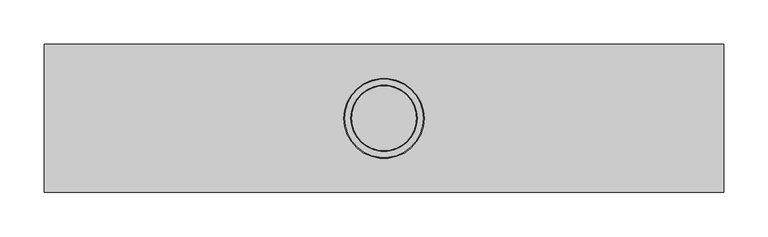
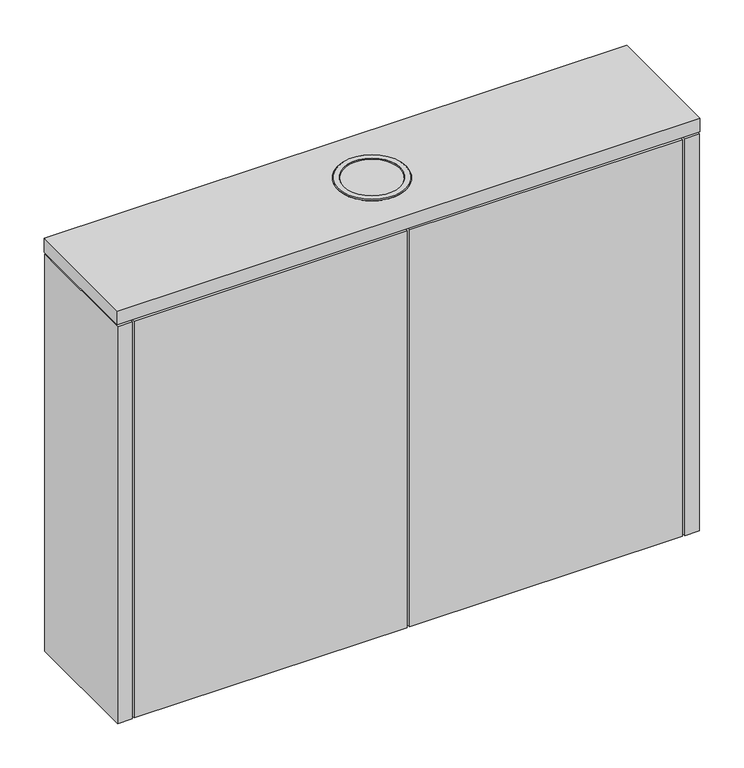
"""IFC4 building model written with IfcOpenShell, lengths in millimetres: furniture geometry, Geiger_GeigerOneCasegoods_LegSupport : Box 30Wx 6.5Dx 22.5H."""

from ifc_helpers import new_model, si_unit, point, frame, frame_2d, origin, place, context, project, spatial, polyline, circle_curve, trimmed, segment, composite_curve, outline, extrude, source, transform, mapped, element, save
from ifc_brep_helpers import plane_surface, revolved_surface, advanced_brep


def furniture_cee21b59(model_context):
    return source(origin(), model_context, "Body", "SolidModel", [
        advanced_brep(
        [(-44.0091356, 0.0153369, 583.82), (44.0091356, 0.0153369, 583.82), (37.1149551, 0.0153369, 583.82), (-37.1149551, 0.0153369, 583.82), (-45.0128883, 0.0153369, 582.8199698), (45.0128883, 0.0153369, 582.8199698), (-36.6225286, 0.0153369, 582.8199698), (36.6225286, 0.0153369, 582.8199698)],
        [
            (0, 1, circle_curve(frame((0.0, 0.0153369, 583.82), z_axis=(0.0, 0.0, 1.0), x_axis=(1.0, 0.0, 0.0)), 44.0091356)),
            (1, 0, circle_curve(frame((0.0, 0.0153369, 583.82), z_axis=(0.0, 0.0, 1.0), x_axis=(-1.0, 0.0, 0.0)), 44.0091356)),
            (2, 3, circle_curve(frame((0.0, 0.0153369, 583.82), z_axis=(0.0, 0.0, -1.0), x_axis=(-1.0, 0.0, 0.0)), 37.1149551)),
            (3, 2, circle_curve(frame((0.0, 0.0153369, 583.82), z_axis=(0.0, 0.0, -1.0), x_axis=(1.0, 0.0, 0.0)), 37.1149551)),
            (4, 5, circle_curve(frame((0.0, 0.0153369, 582.8199698), z_axis=(0.0, 0.0, -1.0), x_axis=(-1.0, 0.0, 0.0)), 45.0128883)),
            (5, 4, circle_curve(frame((0.0, 0.0153369, 582.8199698), z_axis=(0.0, 0.0, -1.0), x_axis=(1.0, 0.0, 0.0)), 45.0128883)),
            (6, 7, circle_curve(frame((0.0, 0.0153369, 582.8199698), z_axis=(0.0, 0.0, 1.0), x_axis=(-1.0, 0.0, 0.0)), 36.6225286)),
            (7, 6, circle_curve(frame((0.0, 0.0153369, 582.8199698), z_axis=(0.0, 0.0, 1.0), x_axis=(1.0, 0.0, 0.0)), 36.6225286)),
            (1, 5),
            (4, 0),
            (7, 2),
            (3, 6),
        ],
        [
            plane_surface(frame((0.0, 0.0153369, 583.82), z_axis=(0.0, 0.0, 1.0), x_axis=(0.0, 1.0, 0.0))),
            plane_surface(frame((0.0, 0.0153369, 582.8199698), z_axis=(0.0, 0.0, -1.0), x_axis=(0.0, 1.0, 0.0))),
            revolved_surface(polyline([(44.00913567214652, 0.0153369, 583.82), (45.0128883, 0.0153369, 582.8199698)]), (0.0, 0.0153369, 627.6659273), (0.0, 0.0, -1.0)),
            revolved_surface(polyline([(-44.00913567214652, 0.0153369, 583.82), (-45.0128883, 0.0153369, 582.8199698)]), (0.0, 0.0153369, 627.6659273), (0.0, 0.0, -1.0)),
            revolved_surface(polyline([(37.1149551, 0.0153369, 583.82), (36.62252866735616, 0.0153369, 582.8199698)]), (0.0, 0.0153369, 508.4461502), (0.0, 0.0, 1.0)),
            revolved_surface(polyline([(-37.1149551, 0.0153369, 583.82), (-36.62252866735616, 0.0153369, 582.8199698)]), (0.0, 0.0153369, 508.4461502), (0.0, 0.0, 1.0)),
        ],
        [
            (0, [[1, 2], [3, 4]]),
            (1, [[5, 6], [7, 8]]),
            (2, [[9, -5, 10, -2]]),
            (3, [[-10, -6, -9, -1]]),
            (4, [[-8, 11, -4, 12]]),
            (5, [[-3, -11, -7, -12]]),
        ],
    ),
        extrude(outline(composite_curve([segment(trimmed(circle_curve(frame_2d((0.0, 0.0153369)), 45.0128883), [point((-45.0128883, 0.0153369))], [point((45.0128883, 0.0153369))], False, "CARTESIAN"), True, "CONTINUOUS"), segment(trimmed(circle_curve(frame_2d((0.0, 0.0153369)), 45.0128883), [point((45.0128883, 0.0153369))], [point((-45.0128883, 0.0153369))], False, "CARTESIAN"), True, "CONTINUOUS")], self_intersect=False)), frame((0.0, 0.0, 582.22), z_axis=(0.0, 0.0, 1.0), x_axis=(1.0, 0.0, 0.0)), (0.0, 0.0, 1.0), 0.5999698),
        extrude(outline(polyline([(-1.5, -82.5), (-359.0, -82.5), (-359.0, -63.5), (-1.5, -63.5), (-1.5, -82.5)])), frame((0.0, 0.0, 11.02), z_axis=(0.0, 0.0, 1.0), x_axis=(1.0, 0.0, 0.0)), (0.0, 0.0, 1.0), 549.0),
        extrude(outline(polyline([(1.5, -82.5), (1.5, -63.5), (359.0, -63.5), (359.0, -82.5), (1.5, -82.5)])), frame((0.0, 0.0, 11.02), z_axis=(0.0, 0.0, 1.0), x_axis=(1.0, 0.0, 0.0)), (0.0, 0.0, 1.0), 549.0),
        extrude(outline(polyline([(362.0, -60.5), (-362.0, -60.5), (-362.0, 63.5), (362.0, 63.5), (362.0, -60.5)])), frame((0.0, 0.0, 13.22), z_axis=(0.0, 0.0, 1.0), x_axis=(1.0, 0.0, 0.0)), (0.0, 0.0, 1.0), 19.0),
        extrude(outline(polyline([(381.5, -83.0), (-381.5, -83.0), (-381.5, 83.0), (381.5, 83.0), (381.5, -83.0)])), frame((0.0, 0.0, 563.22), z_axis=(0.0, 0.0, 1.0), x_axis=(1.0, 0.0, 0.0)), (0.0, 0.0, 1.0), 19.0),
        extrude(outline(polyline([(-381.0, 82.5), (381.0, 82.5), (381.0, -82.5), (362.0, -82.5), (362.0, 63.5), (-362.0, 63.5), (-362.0, -82.5), (-381.0, -82.5), (-381.0, 82.5)])), frame((0.0, 0.0, 11.02), z_axis=(0.0, 0.0, 1.0), x_axis=(1.0, 0.0, 0.0)), (0.0, 0.0, 1.0), 549.0),
    ])


if __name__ == "__main__":
    model = new_model("IFC4")
    model_context = context("Model", 3, world=origin())
    ifc_project = project(units=[si_unit("LENGTHUNIT", "METRE", prefix="MILLI")], contexts=[model_context])
    site = spatial("IfcSite", under=ifc_project)
    building = spatial("IfcBuilding", under=site)
    placement = place(None, origin())
    furniture_shape = furniture_cee21b59(model_context)
    element("IfcFurniture", 1, ObjectType="Geiger_GeigerOneCasegoods_LegSupport : Box 30Wx 6.5Dx 22.5H", at=placement, inside=building, context=model_context, shape_type="MappedRepresentation", body=[
        mapped(furniture_shape, transform((0.0, 0.0, 0.0), x_axis=(1.0, 0.0, 0.0), y_axis=(0.0, 1.0, 0.0), z_axis=(0.0, 0.0, 1.0))),
    ])
    save(model, "model.ifc")
